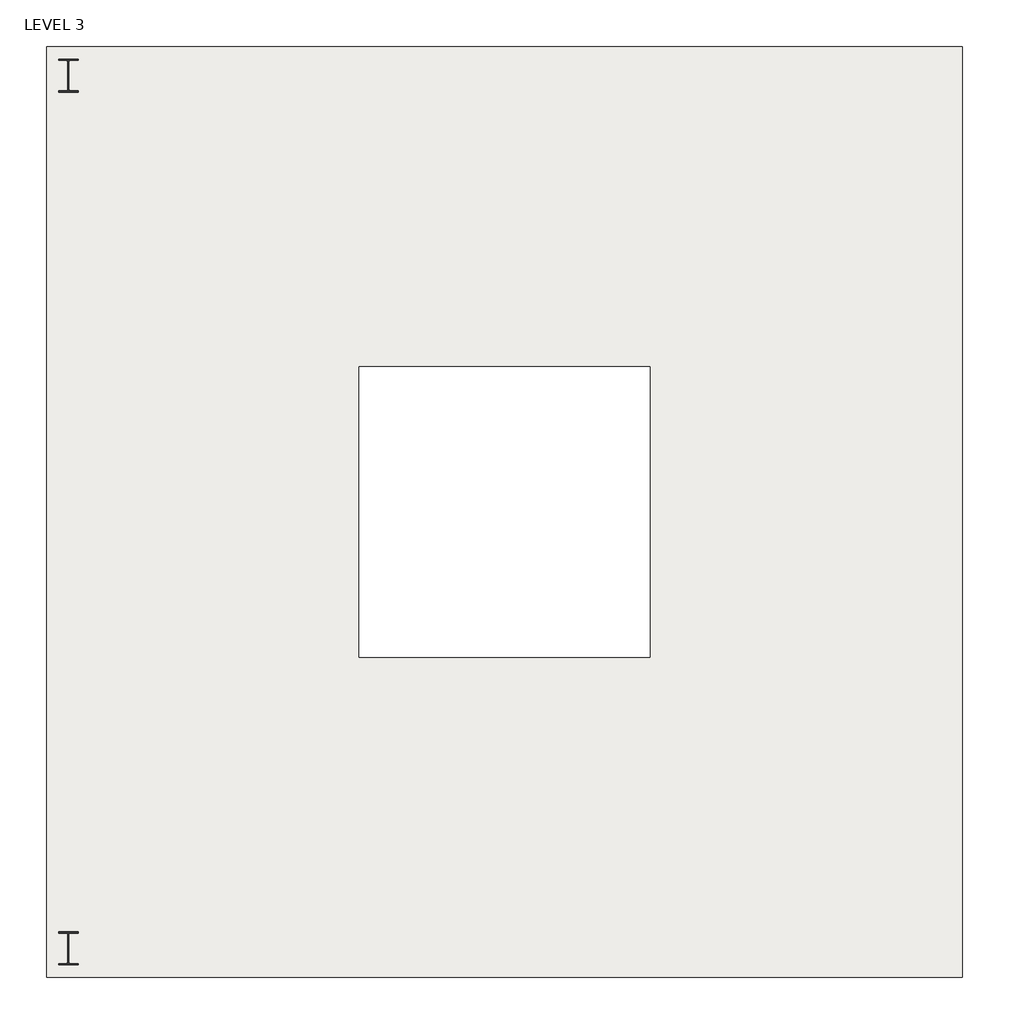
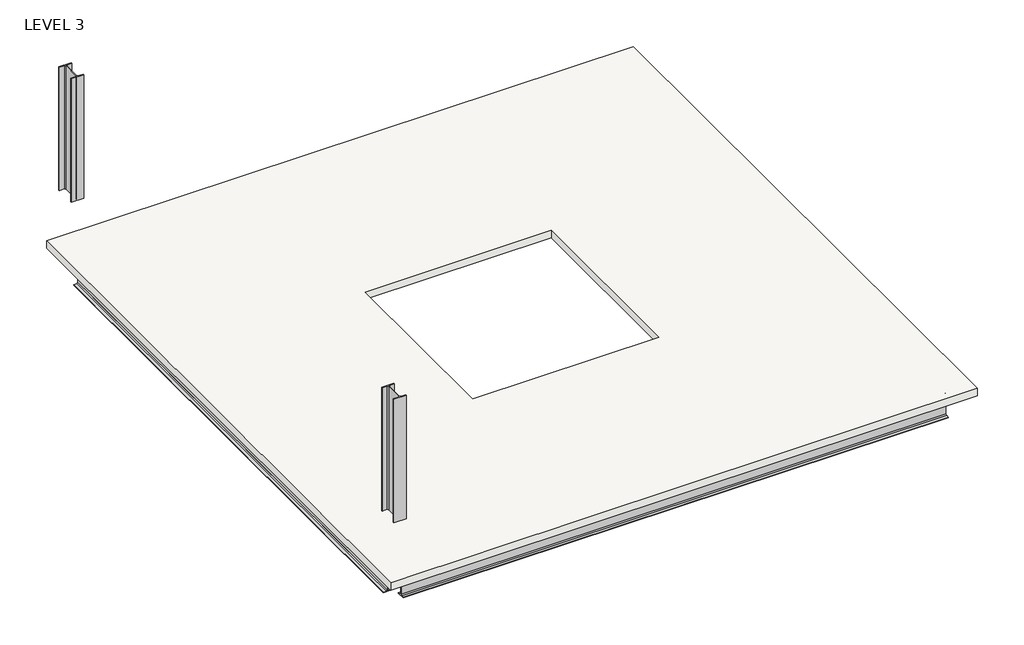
# One storey: 6 beams, 2 columns, 1 slab.
"""IFC4 building model written with IfcOpenShell, lengths in millimetres."""

from ifc_helpers import new_model, si_unit, point, frame, frame_2d, origin, place, context, project, spatial, polyline, circle_curve, trimmed, segment, composite_curve, outline, extrude, transform, mapped, element, save
from components import w_wide_flange_w12x26_5015041e, w_wide_flange_w16x26_d7eb271b, w_wide_flange_w16x26_0fd30d8b

model = new_model("IFC4")

# Units and contexts
model_context = context("Model", 3, world=origin())
ifc_project = project(units=[si_unit("LENGTHUNIT", "METRE", prefix="MILLI")], contexts=[model_context])

# Site, building, storey
site = spatial("IfcSite", under=ifc_project)
building = spatial("IfcBuilding", under=site)
storey = spatial("IfcBuildingStorey", under=building, Name="LEVEL 3", Elevation=6096.0)

# Beams
placement = place(None, origin())
w_wide_flange_w12x26_shape = w_wide_flange_w12x26_5015041e(model_context)
element("IfcBeam", 1, ObjectType="W-Wide Flange : W12X26", at=placement, inside=storey, context=model_context, shape_type="MappedRepresentation", body=[
    mapped(w_wide_flange_w12x26_shape, transform((-1828.8, 0.0, 5813.821875), x_axis=(0.0, 1.0, 0.0), y_axis=(-1.0, 0.0, 0.0), z_axis=(0.0, 0.0, 1.0))),
])
element("IfcBeam", 2, ObjectType="W-Wide Flange : W12X26", at=placement, inside=storey, context=model_context, shape_type="MappedRepresentation", body=[
    mapped(w_wide_flange_w12x26_shape, transform((1828.8, 0.0, 5813.821875), x_axis=(0.0, 1.0, 0.0), y_axis=(-1.0, 0.0, 0.0), z_axis=(0.0, 0.0, 1.0))),
])
w_wide_flange_w16x26_shape = w_wide_flange_w16x26_d7eb271b(model_context)
element("IfcBeam", 3, ObjectType="W-Wide Flange : W16X26", at=placement, inside=storey, context=model_context, shape_type="MappedRepresentation", body=[
    mapped(w_wide_flange_w16x26_shape, transform((0.0, -4572.0, 5769.7191406), x_axis=(1.0, 0.0, 0.0), y_axis=(0.0, 1.0, 0.0), z_axis=(0.0, 0.0, 1.0))),
])
element("IfcBeam", 4, ObjectType="W-Wide Flange : W16X26", at=placement, inside=storey, context=model_context, shape_type="MappedRepresentation", body=[
    mapped(w_wide_flange_w16x26_shape, transform((0.0, 4572.0, 5769.7191406), x_axis=(1.0, 0.0, 0.0), y_axis=(0.0, 1.0, 0.0), z_axis=(0.0, 0.0, 1.0))),
])
w_wide_flange_w16x26_2_shape = w_wide_flange_w16x26_0fd30d8b(model_context)
element("IfcBeam", 5, ObjectType="W-Wide Flange : W16X26", at=placement, inside=storey, context=model_context, shape_type="MappedRepresentation", body=[
    mapped(w_wide_flange_w16x26_2_shape, transform((4572.0, 0.0, 5769.7191406), x_axis=(0.0, 1.0, 0.0), y_axis=(-1.0, 0.0, 0.0), z_axis=(0.0, 0.0, 1.0))),
])
element("IfcBeam", 6, ObjectType="W-Wide Flange : W16X26", at=placement, inside=storey, context=model_context, shape_type="MappedRepresentation", body=[
    mapped(w_wide_flange_w16x26_2_shape, transform((-4572.0, 0.0, 5769.7191406), x_axis=(0.0, 1.0, 0.0), y_axis=(-1.0, 0.0, 0.0), z_axis=(0.0, 0.0, 1.0))),
])

# Columns
element("IfcColumn", 7, ObjectType="W-Wide Flange-Column : W14X43", at=placement, inside=storey, context=model_context, shape_type="SweptSolid", body=[
    extrude(outline(composite_curve([segment(polyline([(-4470.4496094, 4745.4839844), (-4470.4496094, 4731.9902344), (-4546.6992187, 4731.9902344)]), True, "CONTINUOUS"), segment(trimmed(circle_curve(frame_2d((-4546.6992187, 4710.5589844)), 21.43125), [point((-4546.6992187, 4731.9902344))], [point((-4568.1304687, 4710.5589844))], True, "CARTESIAN"), True, "CONTINUOUS"), segment(polyline([(-4568.1304687, 4710.5589844), (-4568.1304687, 4433.4410156)]), True, "CONTINUOUS"), segment(trimmed(circle_curve(frame_2d((-4546.6992187, 4433.4410156)), 21.43125), [point((-4568.1304687, 4433.4410156))], [point((-4546.6992187, 4412.0097656))], True, "CARTESIAN"), True, "CONTINUOUS"), segment(polyline([(-4546.6992187, 4412.0097656), (-4470.4496094, 4412.0097656), (-4470.4496094, 4398.5160156), (-4673.5503906, 4398.5160156), (-4673.5503906, 4412.0097656), (-4597.3007812, 4412.0097656)]), True, "CONTINUOUS"), segment(trimmed(circle_curve(frame_2d((-4597.3007812, 4433.4410156)), 21.43125), [point((-4597.3007812, 4412.0097656))], [point((-4575.8695312, 4433.4410156))], True, "CARTESIAN"), True, "CONTINUOUS"), segment(polyline([(-4575.8695312, 4433.4410156), (-4575.8695312, 4710.5589844)]), True, "CONTINUOUS"), segment(trimmed(circle_curve(frame_2d((-4597.3007812, 4710.5589844)), 21.43125), [point((-4575.8695312, 4710.5589844))], [point((-4597.3007812, 4731.9902344))], True, "CARTESIAN"), True, "CONTINUOUS"), segment(polyline([(-4597.3007812, 4731.9902344), (-4673.5503906, 4731.9902344), (-4673.5503906, 4745.4839844), (-4470.4496094, 4745.4839844)]), True, "CONTINUOUS")], self_intersect=False)), frame((0.0, 0.0, 7010.4), z_axis=(0.0, 0.0, 1.0), x_axis=(1.0, 0.0, 0.0)), (0.0, 0.0, 1.0), 2133.6),
])
element("IfcColumn", 8, ObjectType="W-Wide Flange-Column : W14X43", at=placement, inside=storey, context=model_context, shape_type="SweptSolid", body=[
    extrude(outline(composite_curve([segment(polyline([(-4470.4496094, -4398.5160156), (-4470.4496094, -4412.0097656), (-4546.6992187, -4412.0097656)]), True, "CONTINUOUS"), segment(trimmed(circle_curve(frame_2d((-4546.6992187, -4433.4410156)), 21.43125), [point((-4546.6992187, -4412.0097656))], [point((-4568.1304687, -4433.4410156))], True, "CARTESIAN"), True, "CONTINUOUS"), segment(polyline([(-4568.1304687, -4433.4410156), (-4568.1304687, -4710.5589844)]), True, "CONTINUOUS"), segment(trimmed(circle_curve(frame_2d((-4546.6992187, -4710.5589844)), 21.43125), [point((-4568.1304687, -4710.5589844))], [point((-4546.6992187, -4731.9902344))], True, "CARTESIAN"), True, "CONTINUOUS"), segment(polyline([(-4546.6992187, -4731.9902344), (-4470.4496094, -4731.9902344), (-4470.4496094, -4745.4839844), (-4673.5503906, -4745.4839844), (-4673.5503906, -4731.9902344), (-4597.3007812, -4731.9902344)]), True, "CONTINUOUS"), segment(trimmed(circle_curve(frame_2d((-4597.3007812, -4710.5589844)), 21.43125), [point((-4597.3007812, -4731.9902344))], [point((-4575.8695312, -4710.5589844))], True, "CARTESIAN"), True, "CONTINUOUS"), segment(polyline([(-4575.8695312, -4710.5589844), (-4575.8695312, -4433.4410156)]), True, "CONTINUOUS"), segment(trimmed(circle_curve(frame_2d((-4597.3007812, -4433.4410156)), 21.43125), [point((-4575.8695312, -4433.4410156))], [point((-4597.3007812, -4412.0097656))], True, "CARTESIAN"), True, "CONTINUOUS"), segment(polyline([(-4597.3007812, -4412.0097656), (-4673.5503906, -4412.0097656), (-4673.5503906, -4398.5160156), (-4470.4496094, -4398.5160156)]), True, "CONTINUOUS")], self_intersect=False)), frame((0.0, 0.0, 7010.4), z_axis=(0.0, 0.0, 1.0), x_axis=(1.0, 0.0, 0.0)), (0.0, 0.0, 1.0), 2133.6),
])

# Slab
element("IfcSlab", 9, ObjectType="3\" LW Concrete on 2\" Metal Deck", at=placement, inside=storey, context=model_context, shape_type="SweptSolid", body=[
    extrude(outline(polyline([(4800.6, 4876.8), (4800.6, -4876.8), (-4800.6, -4876.8), (-4800.6, 4876.8), (4800.6, 4876.8)]), holes=[polyline([(1524.0, -1524.0), (1524.0, 1524.0), (-1524.0, 1524.0), (-1524.0, -1524.0), (1524.0, -1524.0)])]), frame((0.0, 0.0, 5969.0), z_axis=(0.0, 0.0, 1.0), x_axis=(1.0, 0.0, 0.0)), (0.0, 0.0, 1.0), 127.0),
])

save(model, "model.ifc")
